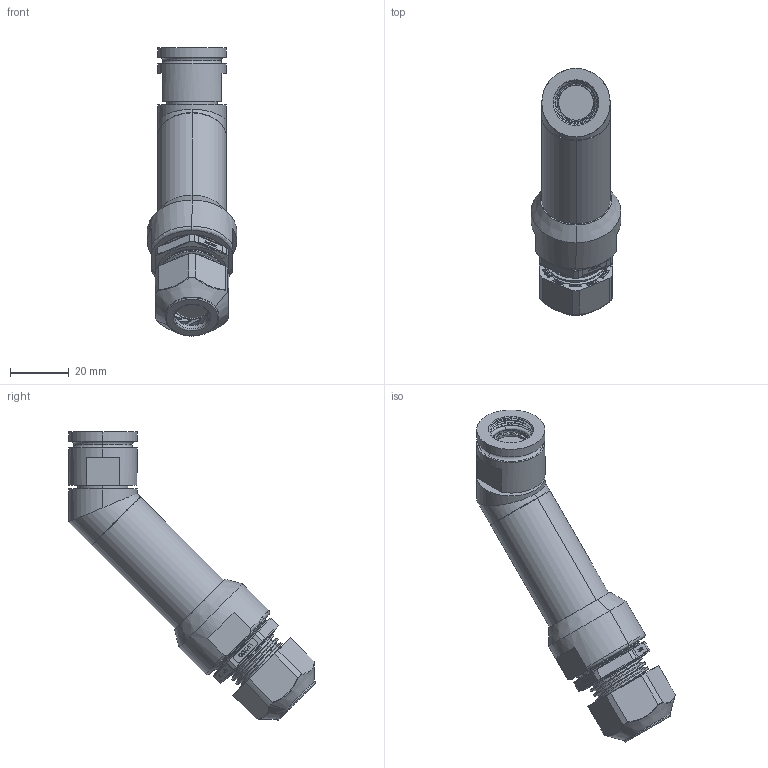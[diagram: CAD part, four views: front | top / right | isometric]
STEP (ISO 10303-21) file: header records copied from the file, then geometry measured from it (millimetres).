
FILE_DESCRIPTION (( 'STEP AP214' ), '1' );
FILE_NAME ('Q38SHELL-45X-11-XXXX-GL.STEP', '2025-09-25T21:42:01', ( '' ), ( '' ), 'SwSTEP 2.0', 'SolidWorks 2024', '' );
FILE_SCHEMA (( 'AUTOMOTIVE_DESIGN' ));
Length unit declared in the file: millimetre
Products named in the file (1): Q38SHELL-45X-11-XXXX-GL
Bounding box: 30.48 x 83.8 x 97.9 mm (x, y, z)
Surface area: 20286 mm2 (no closed solid volume)
Topology: 0 solids, 8 shells, 1258 faces, 3191 edges, 2005 vertices
Faces by surface type: plane 597, cylinder 224, bspline 150, torus 123, cone 110, sphere 54
Entity records: 57013 total; most frequent: CARTESIAN_POINT 32994, ORIENTED_EDGE 6340, EDGE_CURVE 3190, DIRECTION 2845, B_SPLINE_CURVE_WITH_KNOTS 2586, VERTEX_POINT 2005, AXIS2_PLACEMENT_3D 1326, EDGE_LOOP 1324
